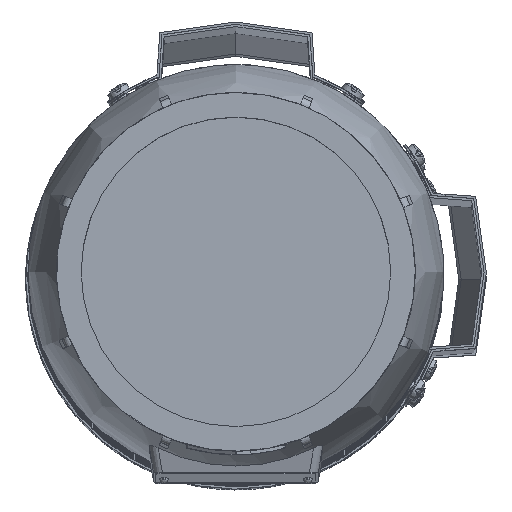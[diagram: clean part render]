
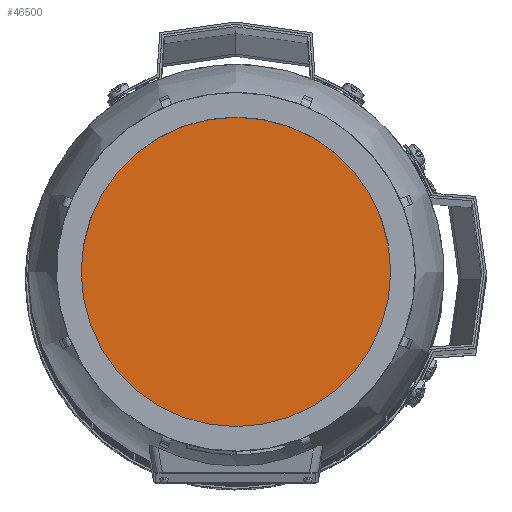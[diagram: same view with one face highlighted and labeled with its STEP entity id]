
A CAD part, top view. The second image highlights one B-rep face of the part: STEP entity #46500.
In plain terms, the highlighted planar face has unit normal (0, 0, 1) as drawn and (0, 1, 0) by its records, which use the part's own axes.
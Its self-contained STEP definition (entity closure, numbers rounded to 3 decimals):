
#9833=ORIENTED_EDGE('',*,*,#23889,.F.);
#23889=EDGE_CURVE('',#30917,#30917,#35647,.T.);
#30917=VERTEX_POINT('',#67138);
#35647=CIRCLE('',#49039,67.736);
#37770=EDGE_LOOP('',(#9833));
#41124=FACE_BOUND('',#37770,.T.);
#44496=PLANE('',#49038);
#46500=ADVANCED_FACE('',(#41124),#44496,.F.);
#49038=AXIS2_PLACEMENT_3D('',#67136,#53639,#53640);
#49039=AXIS2_PLACEMENT_3D('',#67137,#53641,#53642);
#53639=DIRECTION('',(0.,-1.,0.));
#53640=DIRECTION('',(0.,0.,-1.));
#53641=DIRECTION('',(0.,-1.,0.));
#53642=DIRECTION('',(0.,0.,-1.));
#67136=CARTESIAN_POINT('',(0.,154.,0.));
#67137=CARTESIAN_POINT('',(0.,154.,0.));
#67138=CARTESIAN_POINT('',(0.,154.,-67.736));
